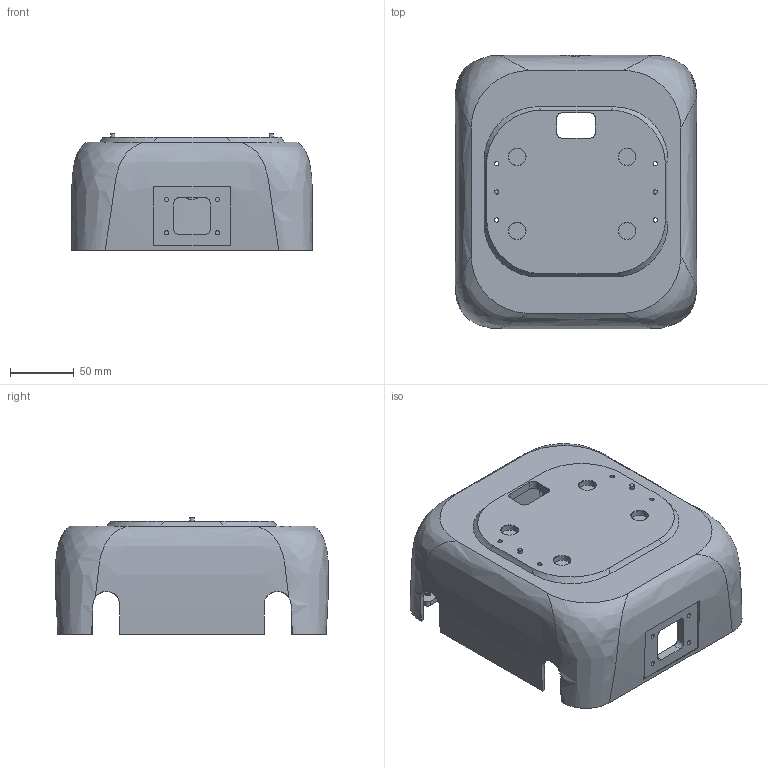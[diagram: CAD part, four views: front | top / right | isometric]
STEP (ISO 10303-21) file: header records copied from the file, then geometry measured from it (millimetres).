
FILE_DESCRIPTION(('FreeCAD Model'),'2;1');
FILE_NAME('Open CASCADE Shape Model','2026-10-18T22:43:11',('FreeCAD'),( 'FreeCAD'),'Open CASCADE STEP processor 7.8','FreeCAD','Unknown');
FILE_SCHEMA(('AUTOMOTIVE_DESIGN { 1 0 10303 214 1 1 1 1 }'));
Length unit declared in the file: millimetre
Products named in the file (1): Open CASCADE STEP translator 7.8 2
Bounding box: 188.73 x 214 x 91.17 mm (x, y, z)
Volume: 369531.6 mm3; surface area: 209565.2 mm2
Topology: 1 solids, 1 shells, 306 faces, 859 edges, 580 vertices
Faces by surface type: plane 207, cylinder 63, bspline 32, cone 4
Full cylindrical faces by diameter (mm): 3.4 x16, 6.4 x4, 12.3 x1, 13.2 x4, 22 x1, 24 x1
Entity records: 13418 total; most frequent: CARTESIAN_POINT 5843, ORIENTED_EDGE 1718, DIRECTION 1333, EDGE_CURVE 859, VERTEX_POINT 580, LINE 503, VECTOR 503, AXIS2_PLACEMENT_3D 415
